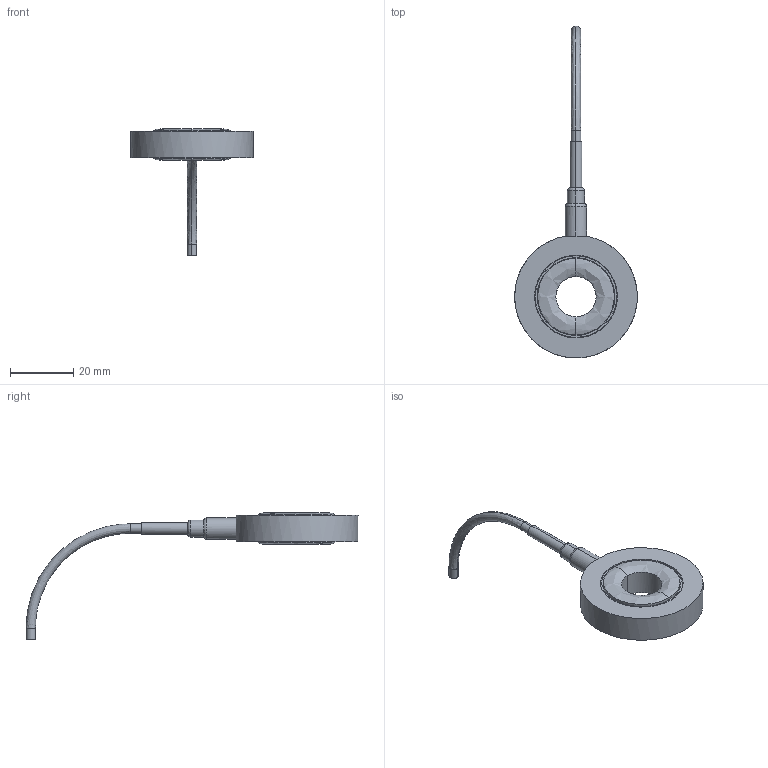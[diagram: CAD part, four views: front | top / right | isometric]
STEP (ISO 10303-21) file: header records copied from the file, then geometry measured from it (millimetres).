
FILE_DESCRIPTION (( 'STEP AP214' ), '1' );
FILE_NAME ('Soemer-SM71-M12-100KN.STEP', '2023-09-21T10:54:50', ( '' ), ( '' ), 'SwSTEP 2.0', 'SolidWorks 2019', '' );
FILE_SCHEMA (( 'AUTOMOTIVE_DESIGN' ));
Length unit declared in the file: millimetre
Products named in the file (2): Soemer-SM71-M12-100KN
Bounding box: 38.78 x 105.01 x 39.99 mm (x, y, z)
Volume: 10095.3 mm3; surface area: 4712.9 mm2
Topology: 1 solids, 1 shells, 49 faces, 100 edges, 56 vertices
Faces by surface type: bspline 39, plane 10
Entity records: 3541 total; most frequent: CARTESIAN_POINT 2738, ORIENTED_EDGE 200, EDGE_CURVE 100, B_SPLINE_CURVE_WITH_KNOTS 72, VERTEX_POINT 56, EDGE_LOOP 54, DIRECTION 52, FACE_OUTER_BOUND 49
